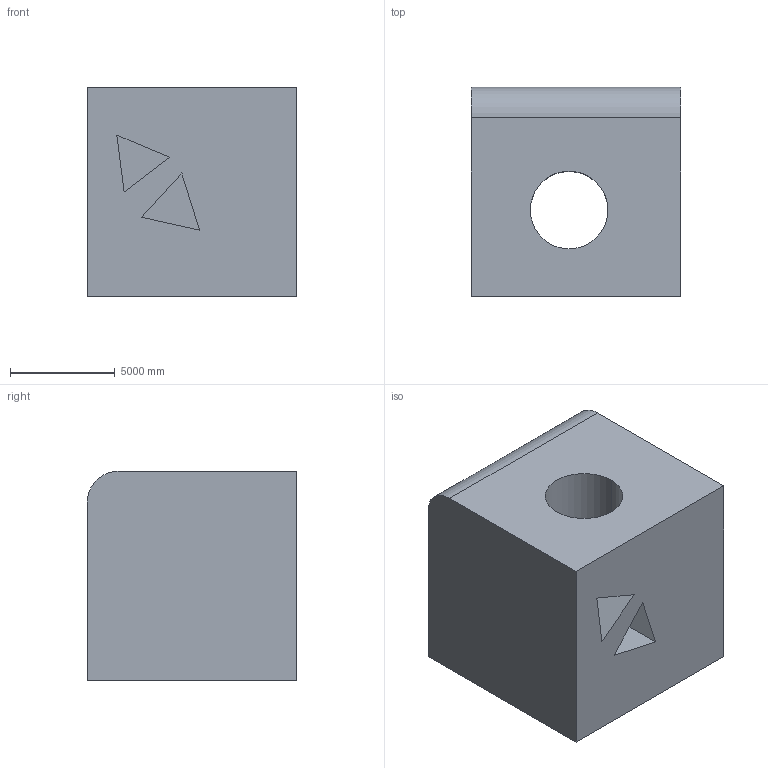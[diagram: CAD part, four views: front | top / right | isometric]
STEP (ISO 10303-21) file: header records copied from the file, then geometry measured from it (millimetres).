
FILE_DESCRIPTION (( 'STEP AP203' ), '1' );
FILE_NAME ('1328.STEP', '2022-08-18T13:47:58', ( 'user' ), ( '' ), 'SwSTEP 2.0', 'SolidWorks 2021', '' );
FILE_SCHEMA (( 'CONFIG_CONTROL_DESIGN' ));
Length unit declared in the file: centimetre
Products named in the file (1): 1328
Bounding box: 10000 x 10000 x 10000 mm (x, y, z)
Volume: 872679895246.3 mm3; surface area: 723490995.4 mm2
Topology: 1 solids, 1 shells, 17 faces, 39 edges, 26 vertices
Faces by surface type: plane 14, cylinder 3
Entity records: 560 total; most frequent: CARTESIAN_POINT 83, DIRECTION 81, ORIENTED_EDGE 78, EDGE_CURVE 39, VECTOR 33, LINE 33, VERTEX_POINT 26, AXIS2_PLACEMENT_3D 24
